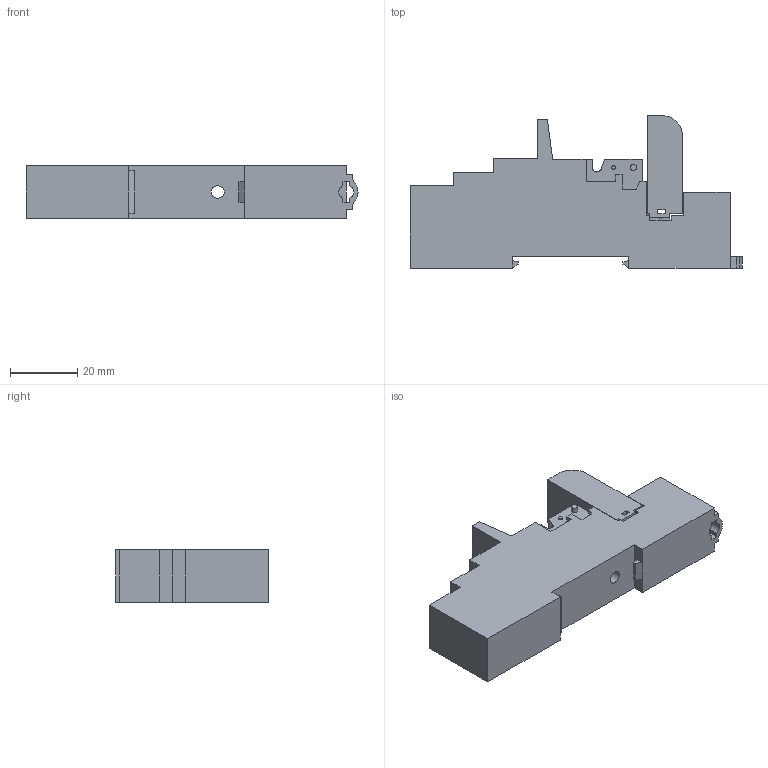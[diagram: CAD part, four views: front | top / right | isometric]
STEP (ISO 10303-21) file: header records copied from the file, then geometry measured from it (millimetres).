
FILE_DESCRIPTION((''),'2;1');
FILE_NAME('700-ADL_HN230_ASM','2017-03-01T',('SEminovi'),('Rockwell Automation'),'PRO/ENGINEER BY PARAMETRIC TECHNOLOGY CORPORATION, 2012480','PRO/ENGINEER BY PARAMETRIC TECHNOLOGY CORPORATION, 2012480','');
FILE_SCHEMA(('CONFIG_CONTROL_DESIGN'));
Length unit declared in the file: millimetre
Products named in the file (3): 46811-619-01; 46811-481-R-DIODE; 700-ADL_HN230_ASM
Assembly tree (2 placements, depth 2):
  700-ADL_HN230_ASM
    46811-619-01
    46811-481-R-DIODE
Bounding box: 99.1 x 45.5 x 15.8 mm (x, y, z)
Volume: 41814.4 mm3; surface area: 15379.2 mm2
Topology: 2 solids, 2 shells, 482 faces, 1275 edges, 846 vertices
Faces by surface type: plane 378, cylinder 102, cone 2
Entity records: 14912 total; most frequent: CARTESIAN_POINT 2641, ORIENTED_EDGE 2550, DIRECTION 2449, EDGE_CURVE 1275, VECTOR 1067, LINE 1067, VERTEX_POINT 846, AXIS2_PLACEMENT_3D 691
